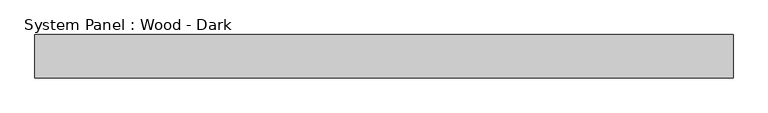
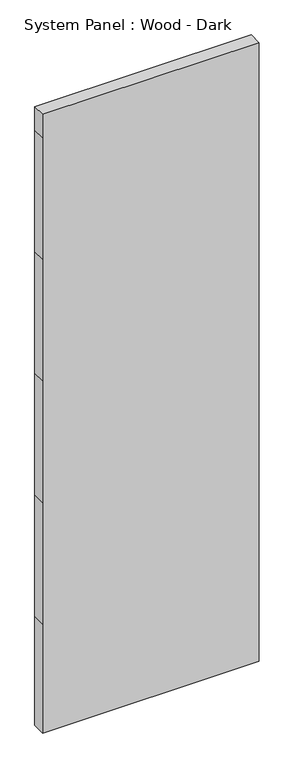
"""IFC4 building model written with IfcOpenShell, lengths in millimetres: plate geometry, System Panel : Wood - Dark."""

from ifc_helpers import new_model, si_unit, frame, origin, place, context, project, spatial, polyline, outline, extrude, source, transform, mapped, element, save


def system_panel_wood_dark_18ae1fc2(model_context):
    return source(origin(), model_context, "Body", "SweptSolid", [
        extrude(outline(polyline([(0.0, -513.5427261), (0.0, 513.5427261), (546.1, 513.5427261), (1155.7, 513.5427261), (1765.3, 513.5427261), (2374.9, 513.5427261), (2984.5, 513.5427261), (3101.9419949, 513.5427261), (3101.9419949, -513.5427261), (2984.5, -513.5427261), (2374.9, -513.5427261), (1765.3, -513.5427261), (1155.7, -513.5427261), (546.1, -513.5427261), (0.0, -513.5427261)])), frame((0.0, -19.05, 0.0), z_axis=(0.0, 1.0, 0.0), x_axis=(0.0, 0.0, 1.0)), (0.0, 0.0, 1.0), 63.5),
    ])


if __name__ == "__main__":
    model = new_model("IFC4")
    model_context = context("Model", 3, world=origin())
    ifc_project = project(units=[si_unit("LENGTHUNIT", "METRE", prefix="MILLI")], contexts=[model_context])
    site = spatial("IfcSite", under=ifc_project)
    building = spatial("IfcBuilding", under=site)
    placement = place(None, origin())
    system_panel_wood_dark_shape = system_panel_wood_dark_18ae1fc2(model_context)
    element("IfcPlate", 1, ObjectType="System Panel : Wood - Dark", at=placement, inside=building, context=model_context, shape_type="MappedRepresentation", body=[
        mapped(system_panel_wood_dark_shape, transform((0.0, 0.0, 0.0), x_axis=(1.0, 0.0, 0.0), y_axis=(0.0, 1.0, 0.0), z_axis=(0.0, 0.0, 1.0))),
    ])
    save(model, "model.ifc")
